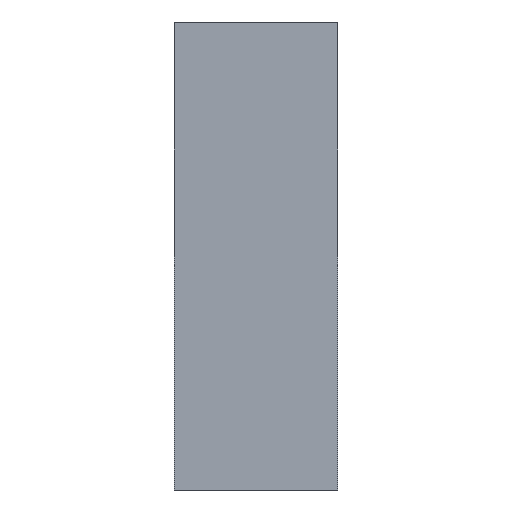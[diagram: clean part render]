
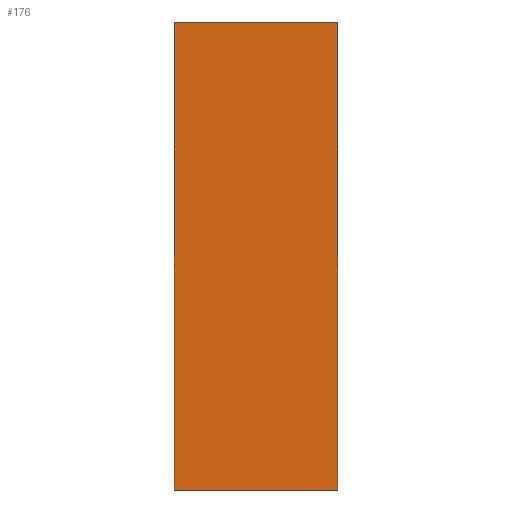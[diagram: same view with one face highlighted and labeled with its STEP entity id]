
A CAD part, left-side view. The second image highlights one B-rep face of the part: STEP entity #176.
In plain terms, the highlighted planar face has unit normal (-1, 0, 0).
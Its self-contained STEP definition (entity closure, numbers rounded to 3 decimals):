
#44=PLANE('',#1020);
#51=LINE('',#2240,#71);
#55=LINE('',#2249,#75);
#63=LINE('',#2275,#83);
#64=LINE('',#2277,#84);
#71=VECTOR('',#1030,1.);
#75=VECTOR('',#1036,1.);
#83=VECTOR('',#1048,1.);
#84=VECTOR('',#1051,1.);
#176=ADVANCED_FACE('',(#260),#44,.F.);
#260=FACE_OUTER_BOUND('',#308,.T.);
#308=EDGE_LOOP('',(#386,#387,#388,#389));
#386=ORIENTED_EDGE('',*,*,#753,.F.);
#387=ORIENTED_EDGE('',*,*,#767,.F.);
#388=ORIENTED_EDGE('',*,*,#768,.F.);
#389=ORIENTED_EDGE('',*,*,#757,.F.);
#647=VERTEX_POINT('',#2241);
#648=VERTEX_POINT('',#2242);
#651=VERTEX_POINT('',#2250);
#658=VERTEX_POINT('',#2274);
#753=EDGE_CURVE('',#647,#648,#51,.T.);
#757=EDGE_CURVE('',#648,#651,#55,.T.);
#767=EDGE_CURVE('',#658,#647,#63,.T.);
#768=EDGE_CURVE('',#651,#658,#64,.T.);
#1020=AXIS2_PLACEMENT_3D('',#2278,#1052,#1053);
#1030=DIRECTION('',(0.,0.,1.));
#1036=DIRECTION('',(0.,-1.,0.));
#1048=DIRECTION('',(0.,1.,0.));
#1051=DIRECTION('',(0.,0.,-1.));
#1052=DIRECTION('',(1.,0.,0.));
#1053=DIRECTION('',(0.,0.,-1.));
#2240=CARTESIAN_POINT('',(-8555.368,6100.058,-8499.22));
#2241=CARTESIAN_POINT('',(-8555.368,6100.058,-8499.22));
#2242=CARTESIAN_POINT('',(-8555.368,6100.058,8991.008));
#2249=CARTESIAN_POINT('',(-8555.368,6100.058,8991.008));
#2250=CARTESIAN_POINT('',(-8555.368,0.,8991.008));
#2274=CARTESIAN_POINT('',(-8555.368,0.,-8499.22));
#2275=CARTESIAN_POINT('',(-8555.368,0.,-8499.22));
#2277=CARTESIAN_POINT('',(-8555.368,0.,-8499.22));
#2278=CARTESIAN_POINT('',(-8555.368,3660.035,1295.308));
